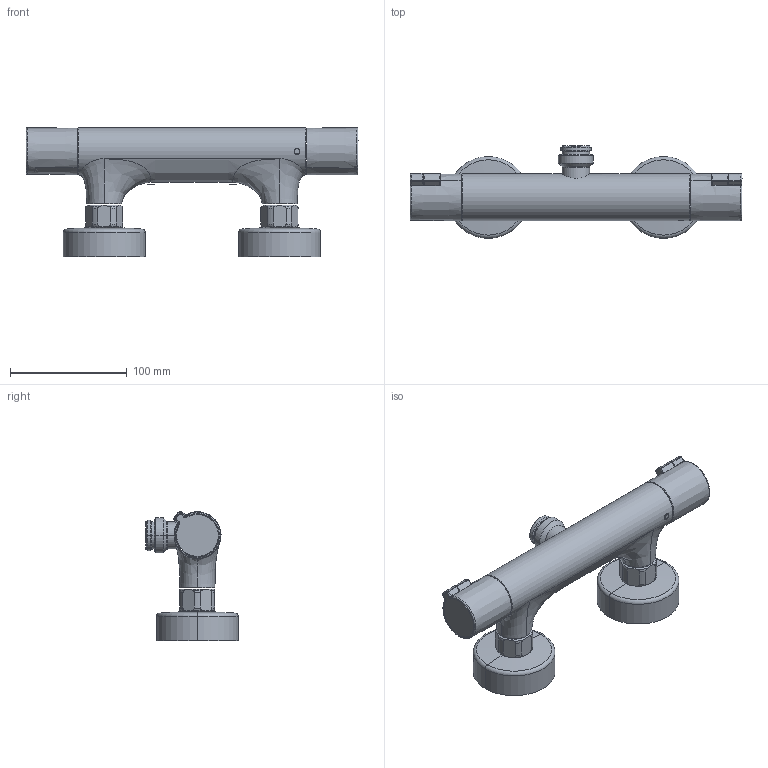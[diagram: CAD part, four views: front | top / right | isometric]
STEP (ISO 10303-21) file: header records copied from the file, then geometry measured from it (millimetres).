
FILE_DESCRIPTION((''),'2;1');
FILE_NAME('57410--','2026-10-14T11:16:48',('simi1'),(''),'CREO PARAMETRIC BY PTC INC, 2022244','CREO PARAMETRIC BY PTC INC, 2022244','');
FILE_SCHEMA(('CONFIG_CONTROL_DESIGN'));
Length unit declared in the file: millimetre
Products named in the file (1): 57410--
Bounding box: 284.15 x 79.23 x 110.84 mm (x, y, z)
Surface area: 82770.5 mm2 (no closed solid volume)
Topology: 0 solids, 78 shells, 465 faces, 2232 edges, 1827 vertices
Faces by surface type: plane 165, cylinder 87, torus 80, bspline 66, cone 52, sphere 14, extrusion 1
Entity records: 26757 total; most frequent: CARTESIAN_POINT 10203, DIRECTION 3101, ORIENTED_EDGE 3063, EDGE_CURVE 2232, VERTEX_POINT 1827, VECTOR 1369, LINE 1368, AXIS2_PLACEMENT_3D 866
